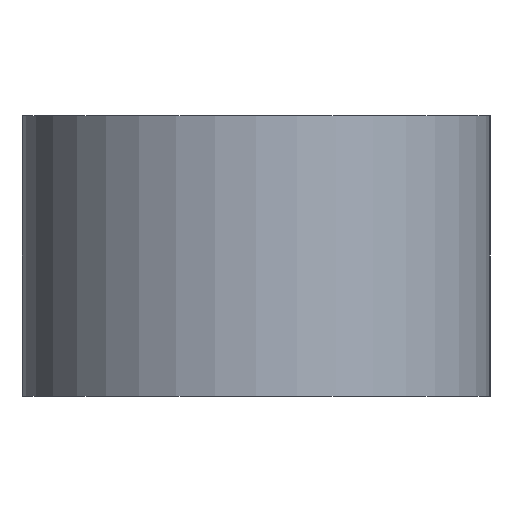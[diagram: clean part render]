
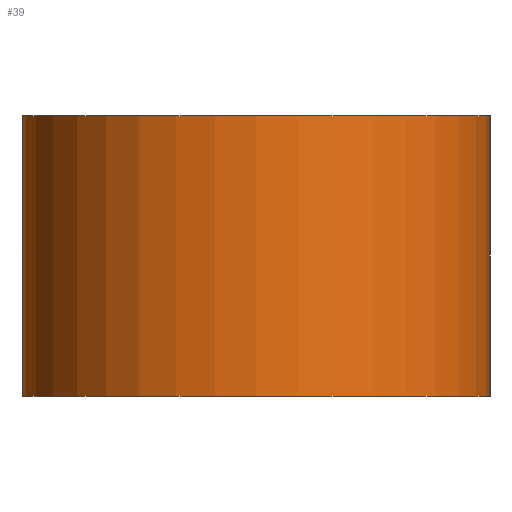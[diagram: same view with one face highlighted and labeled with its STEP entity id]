
A CAD part, left-side view. The second image highlights one B-rep face of the part: STEP entity #39.
In plain terms, the highlighted cylindrical face has radius 1.5 mm (diameter 3 mm), a full revolution.
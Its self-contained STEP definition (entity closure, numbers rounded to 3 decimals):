
#39 = ADVANCED_FACE('',(#40),#54,.T.);
#40 = FACE_BOUND('',#41,.F.);
#41 = EDGE_LOOP('',(#42,#72,#99,#100));
#42 = ORIENTED_EDGE('',*,*,#43,.T.);
#43 = EDGE_CURVE('',#44,#46,#48,.T.);
#44 = VERTEX_POINT('',#45);
#45 = CARTESIAN_POINT('',(-13.5,-45.,7.85));
#46 = VERTEX_POINT('',#47);
#47 = CARTESIAN_POINT('',(-13.5,-45.,9.65));
#48 = SEAM_CURVE('',#49,(#53,#65),.PCURVE_S1.);
#49 = LINE('',#50,#51);
#50 = CARTESIAN_POINT('',(-13.5,-45.,7.85));
#51 = VECTOR('',#52,1.);
#52 = DIRECTION('',(0.,0.,1.));
#53 = PCURVE('',#54,#59);
#54 = CYLINDRICAL_SURFACE('',#55,1.5);
#55 = AXIS2_PLACEMENT_3D('',#56,#57,#58);
#56 = CARTESIAN_POINT('',(-15.,-45.,7.85));
#57 = DIRECTION('',(-0.,-0.,-1.));
#58 = DIRECTION('',(1.,0.,0.));
#59 = DEFINITIONAL_REPRESENTATION('',(#60),#64);
#60 = LINE('',#61,#62);
#61 = CARTESIAN_POINT('',(-0.,0.));
#62 = VECTOR('',#63,1.);
#63 = DIRECTION('',(-0.,-1.));
#64 = ( GEOMETRIC_REPRESENTATION_CONTEXT(2) 
PARAMETRIC_REPRESENTATION_CONTEXT() REPRESENTATION_CONTEXT('2D SPACE',''
  ) );
#65 = PCURVE('',#54,#66);
#66 = DEFINITIONAL_REPRESENTATION('',(#67),#71);
#67 = LINE('',#68,#69);
#68 = CARTESIAN_POINT('',(-6.283,0.));
#69 = VECTOR('',#70,1.);
#70 = DIRECTION('',(-0.,-1.));
#71 = ( GEOMETRIC_REPRESENTATION_CONTEXT(2) 
PARAMETRIC_REPRESENTATION_CONTEXT() REPRESENTATION_CONTEXT('2D SPACE',''
  ) );
#72 = ORIENTED_EDGE('',*,*,#73,.T.);
#73 = EDGE_CURVE('',#46,#46,#74,.T.);
#74 = SURFACE_CURVE('',#75,(#80,#87),.PCURVE_S1.);
#75 = CIRCLE('',#76,1.5);
#76 = AXIS2_PLACEMENT_3D('',#77,#78,#79);
#77 = CARTESIAN_POINT('',(-15.,-45.,9.65));
#78 = DIRECTION('',(0.,0.,1.));
#79 = DIRECTION('',(1.,0.,0.));
#80 = PCURVE('',#54,#81);
#81 = DEFINITIONAL_REPRESENTATION('',(#82),#86);
#82 = LINE('',#83,#84);
#83 = CARTESIAN_POINT('',(-0.,-1.8));
#84 = VECTOR('',#85,1.);
#85 = DIRECTION('',(-1.,0.));
#86 = ( GEOMETRIC_REPRESENTATION_CONTEXT(2) 
PARAMETRIC_REPRESENTATION_CONTEXT() REPRESENTATION_CONTEXT('2D SPACE',''
  ) );
#87 = PCURVE('',#88,#93);
#88 = PLANE('',#89);
#89 = AXIS2_PLACEMENT_3D('',#90,#91,#92);
#90 = CARTESIAN_POINT('',(-15.,-45.,9.65));
#91 = DIRECTION('',(0.,0.,1.));
#92 = DIRECTION('',(1.,0.,-0.));
#93 = DEFINITIONAL_REPRESENTATION('',(#94),#98);
#94 = CIRCLE('',#95,1.5);
#95 = AXIS2_PLACEMENT_2D('',#96,#97);
#96 = CARTESIAN_POINT('',(0.,0.));
#97 = DIRECTION('',(1.,0.));
#98 = ( GEOMETRIC_REPRESENTATION_CONTEXT(2) 
PARAMETRIC_REPRESENTATION_CONTEXT() REPRESENTATION_CONTEXT('2D SPACE',''
  ) );
#99 = ORIENTED_EDGE('',*,*,#43,.F.);
#100 = ORIENTED_EDGE('',*,*,#101,.F.);
#101 = EDGE_CURVE('',#44,#44,#102,.T.);
#102 = SURFACE_CURVE('',#103,(#108,#115),.PCURVE_S1.);
#103 = CIRCLE('',#104,1.5);
#104 = AXIS2_PLACEMENT_3D('',#105,#106,#107);
#105 = CARTESIAN_POINT('',(-15.,-45.,7.85));
#106 = DIRECTION('',(0.,0.,1.));
#107 = DIRECTION('',(1.,0.,0.));
#108 = PCURVE('',#54,#109);
#109 = DEFINITIONAL_REPRESENTATION('',(#110),#114);
#110 = LINE('',#111,#112);
#111 = CARTESIAN_POINT('',(-0.,0.));
#112 = VECTOR('',#113,1.);
#113 = DIRECTION('',(-1.,0.));
#114 = ( GEOMETRIC_REPRESENTATION_CONTEXT(2) 
PARAMETRIC_REPRESENTATION_CONTEXT() REPRESENTATION_CONTEXT('2D SPACE',''
  ) );
#115 = PCURVE('',#116,#121);
#116 = PLANE('',#117);
#117 = AXIS2_PLACEMENT_3D('',#118,#119,#120);
#118 = CARTESIAN_POINT('',(-15.,-45.,7.85));
#119 = DIRECTION('',(0.,0.,1.));
#120 = DIRECTION('',(1.,0.,-0.));
#121 = DEFINITIONAL_REPRESENTATION('',(#122),#126);
#122 = CIRCLE('',#123,1.5);
#123 = AXIS2_PLACEMENT_2D('',#124,#125);
#124 = CARTESIAN_POINT('',(0.,0.));
#125 = DIRECTION('',(1.,0.));
#126 = ( GEOMETRIC_REPRESENTATION_CONTEXT(2) 
PARAMETRIC_REPRESENTATION_CONTEXT() REPRESENTATION_CONTEXT('2D SPACE',''
  ) );
